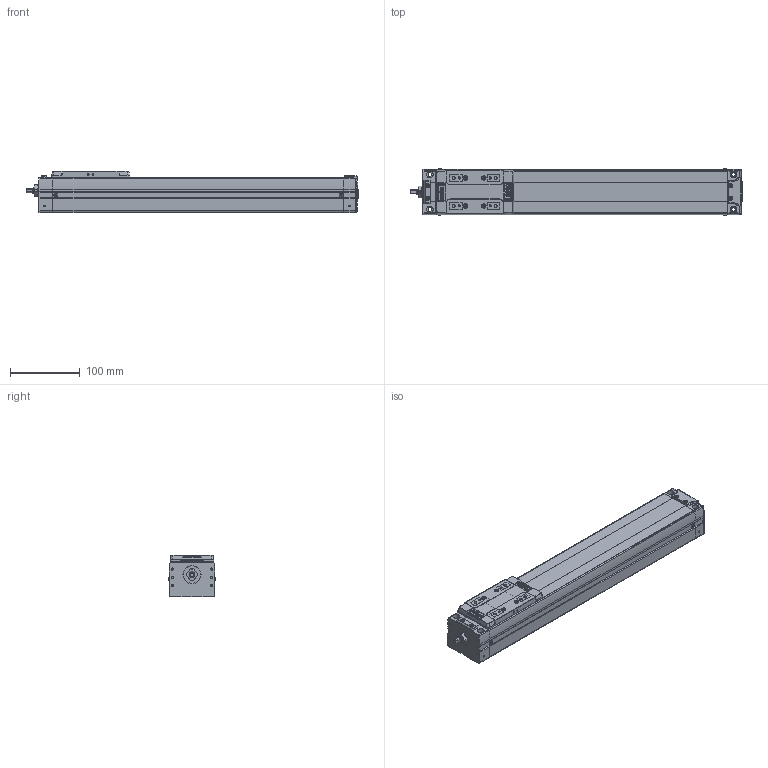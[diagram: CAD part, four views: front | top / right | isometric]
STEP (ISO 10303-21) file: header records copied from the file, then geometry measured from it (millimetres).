
FILE_DESCRIPTION(('STEP AP214'),'1');
FILE_NAME('Z:/Web/3D/SAN65/STP/SAN65ㅁㅁ-300.stp','2012-06-14T05:04:48',(' '),(' '),'Spatial InterOp 3D',' ',' ');
FILE_SCHEMA(('automotive_design'));
Length unit declared in the file: metre
Products named in the file (27): SAN65__-300; BODY-SAN65; REAR-SAN65; RRCV-SAN65; 스크루 : Round - M3.0 x 6.0; FRONT-SAN65; SHAFT-SAN65; RN8 x 0.75; SSFX-SAN65; SLIDE-SAN65; SLCV-SAN65; 스크루 : Countersunk - M3.0 x 6.0
Assembly tree (26 placements, depth 3):
  SAN65__-300
    BODY-SAN65
    REAR-SAN65
      REAR-SAN65
      RRCV-SAN65
      스크루 : Round - M3.0 x 6.0
      스크루 : Round - M3.0 x 6.0
      스크루 : Round - M3.0 x 6.0
      스크루 : Round - M3.0 x 6.0
      스크루 : Round - M3.0 x 6.0
      스크루 : Round - M3.0 x 6.0
    FRONT-SAN65
      FRONT-SAN65
      SHAFT-SAN65
      RN8 x 0.75
      SSFX-SAN65
      스크루 : Round - M3.0 x 6.0
      스크루 : Round - M3.0 x 6.0
      스크루 : Round - M3.0 x 6.0
      스크루 : Round - M3.0 x 6.0
    SLIDE-SAN65
      SLIDE-SAN65
      SLCV-SAN65
      스크루 : Countersunk - M3.0 x 6.0
      스크루 : Countersunk - M3.0 x 6.0
      스크루 : Countersunk - M3.0 x 6.0
      스크루 : Countersunk - M3.0 x 6.0
Bounding box: 474.65 x 67.13 x 60 mm (x, y, z)
Volume: 1472504.6 mm3; surface area: 183919.3 mm2
Topology: 23 solids, 23 shells, 1386 faces, 3586 edges, 2336 vertices
Faces by surface type: plane 843, cylinder 402, cone 75, bspline 26, sphere 22, torus 15, extrusion 3
Full cylindrical faces by diameter (mm): 0.571 x2, 0.706 x1, 1.727 x2, 2.132 x1, 2.2 x4, 2.5 x9, 2.528 x4, 3 x6, 3.121 x2, 3.3 x4, 3.4 x4, 3.5 x6, 4.2 x26, 4.849 x4, 5 x2, 5.5 x4, 5.987 x2, 6 x6, 7 x1, 8 x4, 9.5 x4, 13 x1, 15 x1, 19 x1
Entity records: 56865 total; most frequent: CARTESIAN_POINT 11693, DIRECTION 7001, ORIENTED_EDGE 6652, EDGE_CURVE 3326, AXIS2_PLACEMENT_3D 2366, VERTEX_POINT 2286, VECTOR 2269, LINE 2266
